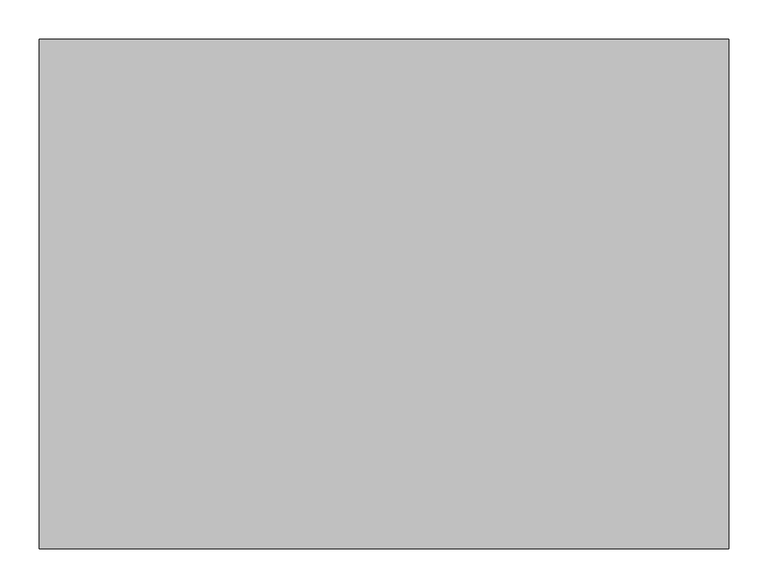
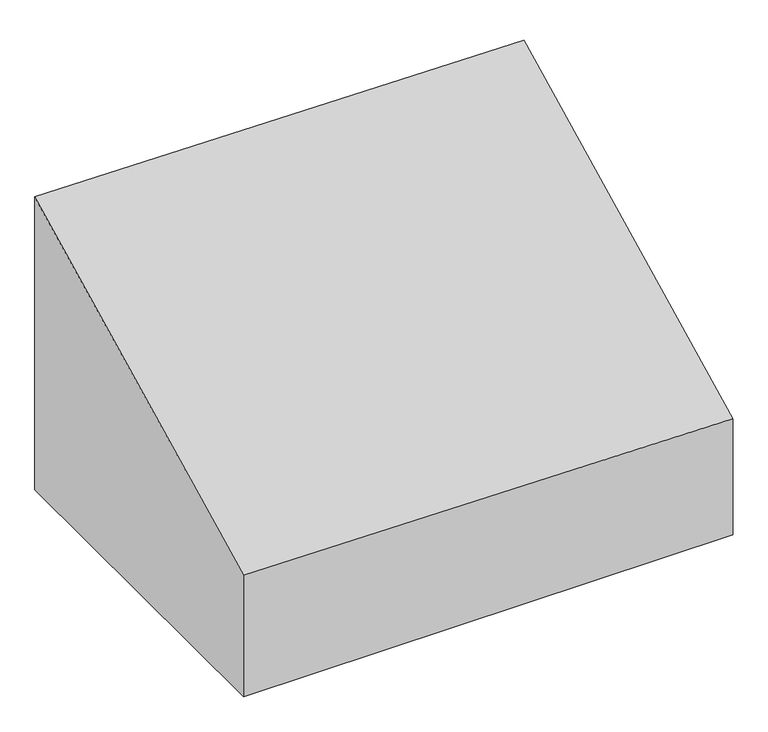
"""IFC4 building model written with IfcOpenShell, lengths in millimetres: proxy geometry, Murs caches C1b : Mus caches 1."""

from ifc_helpers import new_model, si_unit, origin, place, context, project, spatial, faceted_brep, source, transform, mapped, element, save


def generic_models_c2a7ebc0(model_context):
    return source(origin(), model_context, "Body", "Brep", [
        faceted_brep([(6880.0, 3000.0, 4496.0), (6880.0, 2350.0, 4171.0), (6880.0, 2350.0, 3950.0), (6880.0, 3000.0, 3950.0), (6000.0, 3000.0, 4506.0), (6000.0, 3000.0, 3950.0), (6000.0, 2350.0, 3950.0), (6000.0, 2350.0, 4181.0)], [[[0, 1, 2, 3]], [[4, 5, 6, 7]], [[5, 4, 0, 3]], [[6, 5, 3, 2]], [[7, 6, 2, 1]], [[4, 7, 1, 0]]]),
    ])


if __name__ == "__main__":
    model = new_model("IFC4")
    model_context = context("Model", 3, world=origin())
    ifc_project = project(units=[si_unit("LENGTHUNIT", "METRE", prefix="MILLI")], contexts=[model_context])
    site = spatial("IfcSite", under=ifc_project)
    building = spatial("IfcBuilding", under=site)
    placement = place(None, origin())
    generic_models_shape = generic_models_c2a7ebc0(model_context)
    element("IfcBuildingElementProxy", 1, Name="Murs caches C1b : Mus caches 1", ObjectType="Murs caches C1b : Mus caches 1", at=placement, inside=building, context=model_context, shape_type="MappedRepresentation", body=[
        mapped(generic_models_shape, transform((0.0, 0.0, 0.0), x_axis=(1.0, 0.0, 0.0), y_axis=(0.0, 1.0, 0.0), z_axis=(0.0, 0.0, 1.0))),
    ])
    save(model, "model.ifc")
